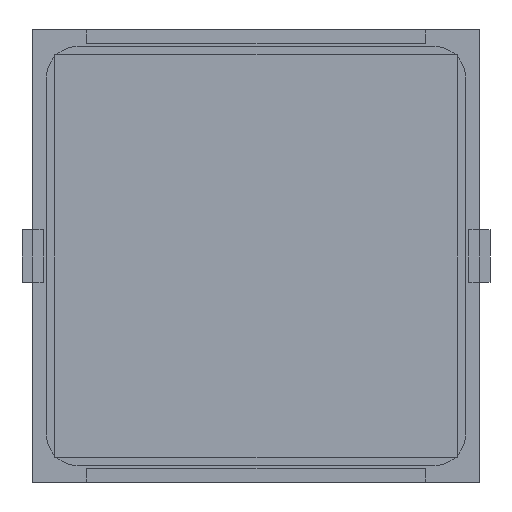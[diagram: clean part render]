
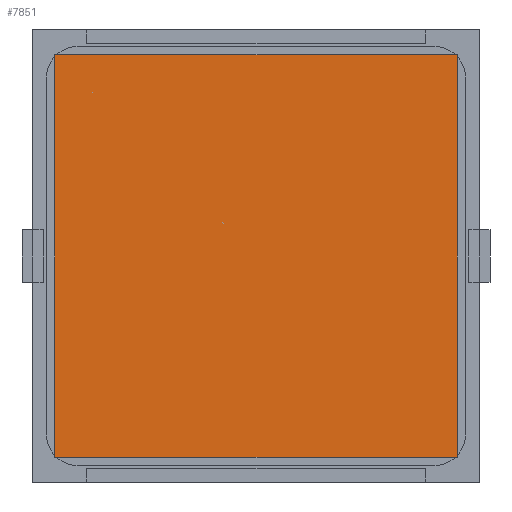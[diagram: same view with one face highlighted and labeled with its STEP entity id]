
A CAD part, front view. The second image highlights one B-rep face of the part: STEP entity #7851.
In plain terms, the highlighted planar face has unit normal (0, -1, 0).
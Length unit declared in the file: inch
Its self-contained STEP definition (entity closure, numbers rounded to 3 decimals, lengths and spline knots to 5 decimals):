
#457 = CARTESIAN_POINT ( 'NONE',  ( 0.74803, -0.005, 0.74803 ) ) ;
#984 = LINE ( 'NONE', #17552, #13128 ) ;
#1212 = VECTOR ( 'NONE', #10807, 39.37008 ) ;
#1476 = VERTEX_POINT ( 'NONE', #4651 ) ;
#2105 = CARTESIAN_POINT ( 'NONE',  ( 0.74803, -0.005, 0.74803 ) ) ;
#2879 = ORIENTED_EDGE ( 'NONE', *, *, #18436, .T. ) ;
#2887 = EDGE_CURVE ( 'NONE', #1476, #10589, #984, .T. ) ;
#4056 = VERTEX_POINT ( 'NONE', #8487 ) ;
#4651 = CARTESIAN_POINT ( 'NONE',  ( 0.74803, -0.005, -0.74803 ) ) ;
#5131 = LINE ( 'NONE', #2105, #5161 ) ;
#5161 = VECTOR ( 'NONE', #16794, 39.37008 ) ;
#5771 = DIRECTION ( 'NONE',  ( 0., 0., -1. ) ) ;
#6128 = DIRECTION ( 'NONE',  ( 0., 0., 1. ) ) ;
#6187 = CARTESIAN_POINT ( 'NONE',  ( 0.74803, -0.005, 0.74803 ) ) ;
#7480 = AXIS2_PLACEMENT_3D ( 'NONE', #457, #14991, #6128 ) ;
#7600 = CARTESIAN_POINT ( 'NONE',  ( -0.74803, -0.005, 0.74803 ) ) ;
#7851 = ADVANCED_FACE ( 'NONE', ( #16626 ), #13720, .T. ) ;
#7852 = CARTESIAN_POINT ( 'NONE',  ( 0.74803, -0.005, -0.74803 ) ) ;
#8487 = CARTESIAN_POINT ( 'NONE',  ( -0.74803, -0.005, -0.74803 ) ) ;
#8552 = ORIENTED_EDGE ( 'NONE', *, *, #17813, .T. ) ;
#8947 = CARTESIAN_POINT ( 'NONE',  ( -0.74803, -0.005, -0.74803 ) ) ;
#9181 = EDGE_LOOP ( 'NONE', ( #11301, #12917, #2879, #8552 ) ) ;
#9437 = LINE ( 'NONE', #7852, #1212 ) ;
#10589 = VERTEX_POINT ( 'NONE', #6187 ) ;
#10807 = DIRECTION ( 'NONE',  ( 1., 0., 0. ) ) ;
#11301 = ORIENTED_EDGE ( 'NONE', *, *, #2887, .T. ) ;
#12917 = ORIENTED_EDGE ( 'NONE', *, *, #13347, .T. ) ;
#13128 = VECTOR ( 'NONE', #19019, 39.37008 ) ;
#13347 = EDGE_CURVE ( 'NONE', #10589, #13602, #5131, .T. ) ;
#13602 = VERTEX_POINT ( 'NONE', #7600 ) ;
#13720 = PLANE ( 'NONE',  #7480 ) ;
#14191 = VECTOR ( 'NONE', #5771, 39.37008 ) ;
#14991 = DIRECTION ( 'NONE',  ( 0., -1., 0. ) ) ;
#16626 = FACE_OUTER_BOUND ( 'NONE', #9181, .T. ) ;
#16794 = DIRECTION ( 'NONE',  ( -1., 0., 0. ) ) ;
#17552 = CARTESIAN_POINT ( 'NONE',  ( 0.74803, -0.005, -0.74803 ) ) ;
#17813 = EDGE_CURVE ( 'NONE', #4056, #1476, #9437, .T. ) ;
#18436 = EDGE_CURVE ( 'NONE', #13602, #4056, #19089, .T. ) ;
#19019 = DIRECTION ( 'NONE',  ( 0., 0., 1. ) ) ;
#19089 = LINE ( 'NONE', #8947, #14191 ) ;
